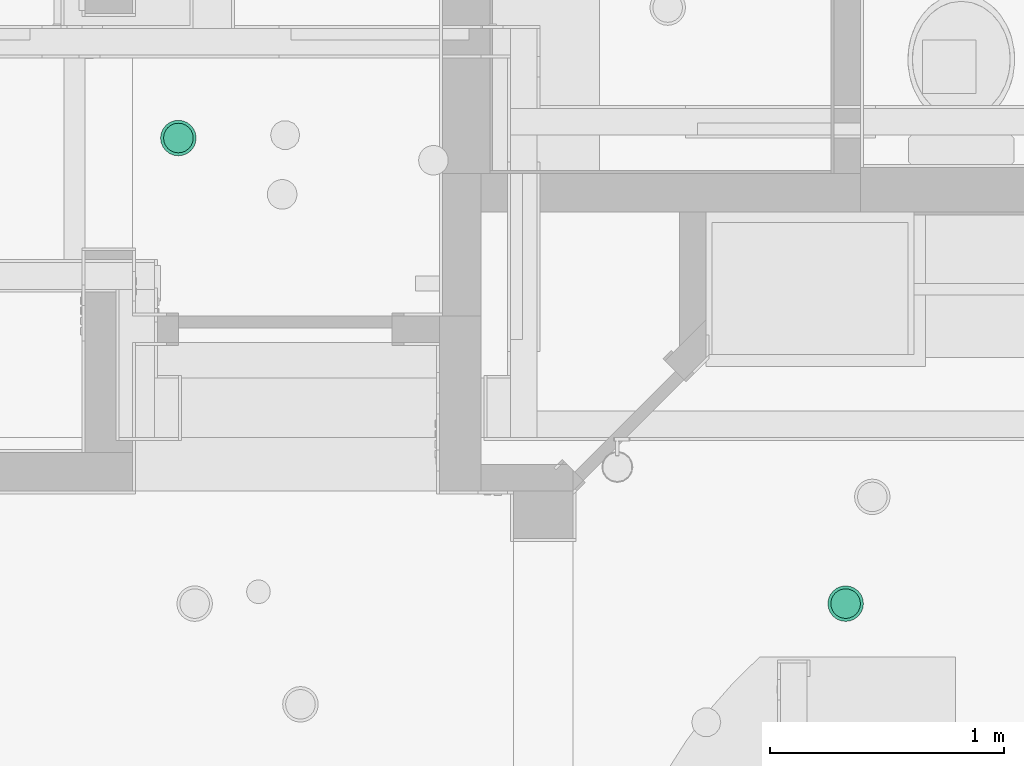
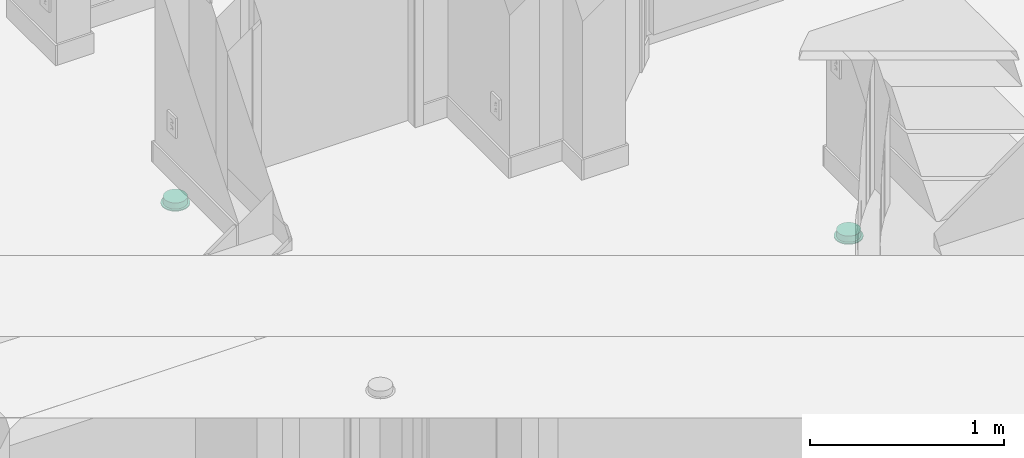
# One storey, part 44 of 81: 2 flow terminals.
"""IFC2X3 building model written with IfcOpenShell, lengths in feet."""

from ifc_helpers import new_model, entity, si_unit, converted_unit, derived_unit, direction, frame, origin, place, context, subcontext, project, spatial, faceted_brep, source, transform, mapped, material, material_list, type_object, type_shapes, element, save


model = new_model("IFC2X3")

# Units and contexts
model_context = context("Model", 3, precision=0.0001, world=origin(), true_north=direction((6.12303176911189e-17, 1.0)))
body_context = subcontext(model_context, "Body", "Model", "MODEL_VIEW")
ifc_project = project(units=[converted_unit("LENGTHUNIT", "FOOT", entity("IfcRatioMeasure", 0.3048), si_unit("LENGTHUNIT", "METRE"), dimensions=[1, 0, 0, 0, 0, 0, 0]), converted_unit("AREAUNIT", "SQUARE FOOT", entity("IfcRatioMeasure", 0.09290304), si_unit("AREAUNIT", "SQUARE_METRE"), dimensions=[2, 0, 0, 0, 0, 0, 0]), converted_unit("VOLUMEUNIT", "CUBIC FOOT", entity("IfcRatioMeasure", 0.028316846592), si_unit("VOLUMEUNIT", "CUBIC_METRE"), dimensions=[3, 0, 0, 0, 0, 0, 0]), converted_unit("PLANEANGLEUNIT", "DEGREE", entity("IfcRatioMeasure", 0.0174532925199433), si_unit("PLANEANGLEUNIT", "RADIAN"), dimensions=[0, 0, 0, 0, 0, 0, 0]), si_unit("MASSUNIT", "GRAM", prefix="KILO"), derived_unit("MASSDENSITYUNIT", [(si_unit("MASSUNIT", "GRAM", prefix="KILO"), 1), (si_unit("LENGTHUNIT", "METRE"), -3)]), derived_unit("MOMENTOFINERTIAUNIT", [(si_unit("LENGTHUNIT", "METRE"), 4)]), si_unit("TIMEUNIT", "SECOND"), si_unit("FREQUENCYUNIT", "HERTZ"), si_unit("THERMODYNAMICTEMPERATUREUNIT", "DEGREE_CELSIUS"), derived_unit("THERMALTRANSMITTANCEUNIT", [(si_unit("MASSUNIT", "GRAM", prefix="KILO"), 1), (si_unit("THERMODYNAMICTEMPERATUREUNIT", "KELVIN"), -1), (si_unit("TIMEUNIT", "SECOND"), -3)]), derived_unit("VOLUMETRICFLOWRATEUNIT", [(si_unit("LENGTHUNIT", "METRE"), 3), (si_unit("TIMEUNIT", "SECOND"), -1)]), si_unit("ELECTRICCURRENTUNIT", "AMPERE"), si_unit("ELECTRICVOLTAGEUNIT", "VOLT"), si_unit("POWERUNIT", "WATT"), si_unit("FORCEUNIT", "NEWTON"), si_unit("ILLUMINANCEUNIT", "LUX"), si_unit("LUMINOUSFLUXUNIT", "LUMEN"), si_unit("LUMINOUSINTENSITYUNIT", "CANDELA"), derived_unit("USERDEFINED", [(si_unit("MASSUNIT", "GRAM", prefix="KILO"), -1), (si_unit("LENGTHUNIT", "METRE"), -2), (si_unit("TIMEUNIT", "SECOND"), 3), (si_unit("LUMINOUSFLUXUNIT", "LUMEN"), 1)]), derived_unit("LINEARVELOCITYUNIT", [(si_unit("LENGTHUNIT", "METRE"), 1), (si_unit("TIMEUNIT", "SECOND"), -1)]), si_unit("PRESSUREUNIT", "PASCAL"), derived_unit("USERDEFINED", [(si_unit("LENGTHUNIT", "METRE"), -2), (si_unit("MASSUNIT", "GRAM", prefix="KILO"), 1), (si_unit("TIMEUNIT", "SECOND"), -2)]), derived_unit("LINEARFORCEUNIT", [(si_unit("MASSUNIT", "GRAM", prefix="KILO"), 1), (si_unit("LENGTHUNIT", "METRE"), 1), (si_unit("TIMEUNIT", "SECOND"), -2), (si_unit("LENGTHUNIT", "METRE"), -1)]), derived_unit("PLANARFORCEUNIT", [(si_unit("MASSUNIT", "GRAM", prefix="KILO"), 1), (si_unit("LENGTHUNIT", "METRE"), 1), (si_unit("TIMEUNIT", "SECOND"), -2), (si_unit("LENGTHUNIT", "METRE"), -2)])], contexts=[model_context])

# Site, building, storey
site_placement = place(None, origin())
site = spatial("IfcSite", under=ifc_project, at=site_placement, Name="Default", CompositionType="ELEMENT")
building_placement = place(site_placement, origin())
building = spatial("IfcBuilding", under=site, at=building_placement, CompositionType="ELEMENT")
storey_placement = place(building_placement, origin())
storey = spatial("IfcBuildingStorey", under=building, at=storey_placement, Name="First floor", CompositionType="ELEMENT", Elevation=0.0)

# Flow terminals
ifc_material_1 = material(Name="Default New Material")
ifc_material_2 = material(Name="Glass, White, High Luminance")
ifc_material_list_1 = material_list([ifc_material_1, ifc_material_2])
ifc_material_list_2 = material_list([ifc_material_1, ifc_material_2])
light_fixture_type = type_object("IfcLightFixtureType", Name="M_Recessed Lamp - Round - LED:Light 2", PredefinedType="NOTDEFINED", material=ifc_material_list_2)
shared_shape = source(origin(), body_context, "Body", "Brep", [
    faceted_brep([(-0.124999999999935, 0.216506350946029, 0.0208333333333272), (-0.176776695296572, 0.176776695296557, 0.0208333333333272), (-0.0833333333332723, 0.144337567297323, 0.0208333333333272), (-0.0431365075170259, 0.160987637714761, 0.0208333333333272), (-0.0647047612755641, 0.241481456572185, 0.0208333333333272), (-0.117851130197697, 0.117851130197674, 0.0208333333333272), (-0.216506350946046, 0.12499999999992, 0.0208333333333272), (-0.144337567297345, 0.0833333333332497, 0.0208333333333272), (-0.160987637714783, 0.0431365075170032, 0.0208333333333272), (-0.241481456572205, 0.0647047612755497, 0.0208333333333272), (-0.166666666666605, 0.0, 0.0208333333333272), (-0.249999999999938, 0.0, 0.0208333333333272), (-0.160987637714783, -0.0431365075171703, 0.0208333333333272), (-0.241481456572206, -0.0647047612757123, 0.0208333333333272), (-0.144337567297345, -0.0833333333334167, 0.0208333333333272), (-0.216506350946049, -0.125000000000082, 0.0208333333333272), (-0.117851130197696, -0.117851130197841, 0.0208333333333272), (-0.176776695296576, -0.176776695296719, 0.0208333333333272), (-0.0833333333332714, -0.14433756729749, 0.0208333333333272), (-0.12499999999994, -0.216506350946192, 0.0208333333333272), (-0.0431365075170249, -0.160987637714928, 0.0208333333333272), (-0.0647047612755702, -0.24148145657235, 0.0208333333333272), (0.0, -0.16666666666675, 0.0208333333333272), (0.0, -0.250000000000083, 0.0208333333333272), (0.0431365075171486, -0.160987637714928, 0.0208333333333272), (0.0647047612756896, -0.241481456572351, 0.0208333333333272), (0.0833333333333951, -0.144337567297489, 0.0208333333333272), (0.12500000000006, -0.216506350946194, 0.0208333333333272), (0.11785113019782, -0.117851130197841, 0.0208333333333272), (0.176776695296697, -0.176776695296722, 0.0208333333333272), (0.144337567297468, -0.0833333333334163, 0.0208333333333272), (0.21650635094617, -0.125000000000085, 0.0208333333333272), (0.241481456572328, -0.0647047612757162, 0.0208333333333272), (0.160987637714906, -0.0431365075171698, 0.0208333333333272), (0.250000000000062, 0.0, 0.0208333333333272), (0.166666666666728, 0.0, 0.0208333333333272), (0.241481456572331, 0.06470476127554, 0.0208333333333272), (0.160987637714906, 0.0431365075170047, 0.0208333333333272), (0.216506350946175, 0.124999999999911, 0.0208333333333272), (0.144337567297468, 0.0833333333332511, 0.0208333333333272), (0.176776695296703, 0.176776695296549, 0.0208333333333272), (0.117851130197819, 0.117851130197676, 0.0208333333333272), (0.125000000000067, 0.216506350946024, 0.0208333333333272), (0.0833333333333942, 0.144337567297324, 0.0208333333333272), (0.0647047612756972, 0.241481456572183, 0.0208333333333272), (0.0431365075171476, 0.160987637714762, 0.0208333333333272), (0.0, 0.249999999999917, 0.0208333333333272), (0.0, 0.166666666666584, 0.0208333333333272), (-0.12499999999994, -0.216506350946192, 0.0), (-0.176776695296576, -0.176776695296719, 0.0), (-0.0833333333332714, -0.14433756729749, 0.0), (-0.0431365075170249, -0.160987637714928, 0.0), (-0.0647047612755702, -0.24148145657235, 0.0), (-0.117851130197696, -0.117851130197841, 0.0), (-0.216506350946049, -0.125000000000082, 0.0), (-0.144337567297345, -0.0833333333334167, 0.0), (-0.160987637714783, -0.0431365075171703, 0.0), (-0.241481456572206, -0.0647047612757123, 0.0), (-0.166666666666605, 0.0, 0.0), (-0.249999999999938, 0.0, 0.0), (-0.160987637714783, 0.0431365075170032, 0.0), (-0.241481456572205, 0.0647047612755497, 0.0), (-0.144337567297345, 0.0833333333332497, 0.0), (-0.216506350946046, 0.12499999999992, 0.0), (-0.117851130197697, 0.117851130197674, 0.0), (-0.176776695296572, 0.176776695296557, 0.0), (-0.0833333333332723, 0.144337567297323, 0.0), (-0.124999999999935, 0.216506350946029, 0.0), (-0.0431365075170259, 0.160987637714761, 0.0), (-0.0647047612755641, 0.241481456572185, 0.0), (0.0, 0.166666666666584, 0.0), (0.0, 0.249999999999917, 0.0), (0.0431365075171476, 0.160987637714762, 0.0), (0.0647047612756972, 0.241481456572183, 0.0), (0.0833333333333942, 0.144337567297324, 0.0), (0.125000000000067, 0.216506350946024, 0.0), (0.117851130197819, 0.117851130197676, 0.0), (0.176776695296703, 0.176776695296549, 0.0), (0.144337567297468, 0.0833333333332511, 0.0), (0.216506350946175, 0.124999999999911, 0.0), (0.241481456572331, 0.06470476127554, 0.0), (0.160987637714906, 0.0431365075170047, 0.0), (0.250000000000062, 0.0, 0.0), (0.166666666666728, 0.0, 0.0), (0.241481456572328, -0.0647047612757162, 0.0), (0.160987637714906, -0.0431365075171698, 0.0), (0.21650635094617, -0.125000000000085, 0.0), (0.144337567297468, -0.0833333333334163, 0.0), (0.176776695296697, -0.176776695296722, 0.0), (0.11785113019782, -0.117851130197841, 0.0), (0.12500000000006, -0.216506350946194, 0.0), (0.0833333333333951, -0.144337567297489, 0.0), (0.0647047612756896, -0.241481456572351, 0.0), (0.0431365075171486, -0.160987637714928, 0.0), (0.0, -0.250000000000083, 0.0), (0.0, -0.16666666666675, 0.0)], [[[0, 1, 2]], [[0, 2, 3]], [[3, 4, 0]], [[2, 1, 5]], [[6, 5, 1]], [[7, 5, 6]], [[8, 7, 6]], [[8, 6, 9]], [[8, 9, 10]], [[10, 9, 11]], [[12, 10, 11]], [[12, 11, 13]], [[14, 12, 13]], [[14, 13, 15]], [[16, 14, 15]], [[15, 17, 16]], [[17, 18, 16]], [[18, 17, 19]], [[18, 19, 20]], [[21, 20, 19]], [[20, 21, 22]], [[22, 21, 23]], [[23, 24, 22]], [[24, 23, 25]], [[24, 25, 26]], [[27, 26, 25]], [[27, 28, 26]], [[27, 29, 28]], [[30, 28, 29]], [[31, 30, 29]], [[32, 30, 31]], [[33, 30, 32]], [[33, 32, 34]], [[34, 35, 33]], [[36, 35, 34]], [[36, 37, 35]], [[37, 36, 38]], [[39, 37, 38]], [[39, 38, 40]], [[39, 40, 41]], [[40, 42, 41]], [[41, 42, 43]], [[43, 42, 44]], [[44, 45, 43]], [[46, 45, 44]], [[4, 47, 46]], [[45, 46, 47]], [[4, 3, 47]], [[48, 49, 50]], [[48, 50, 51]], [[51, 52, 48]], [[50, 49, 53]], [[54, 53, 49]], [[55, 53, 54]], [[56, 55, 54]], [[56, 54, 57]], [[56, 57, 58]], [[58, 57, 59]], [[60, 58, 59]], [[60, 59, 61]], [[62, 60, 61]], [[62, 61, 63]], [[64, 62, 63]], [[63, 65, 64]], [[65, 66, 64]], [[66, 65, 67]], [[66, 67, 68]], [[69, 68, 67]], [[68, 69, 70]], [[70, 69, 71]], [[71, 72, 70]], [[72, 71, 73]], [[72, 73, 74]], [[75, 74, 73]], [[75, 76, 74]], [[75, 77, 76]], [[78, 76, 77]], [[79, 78, 77]], [[80, 78, 79]], [[81, 78, 80]], [[81, 80, 82]], [[82, 83, 81]], [[84, 83, 82]], [[84, 85, 83]], [[85, 84, 86]], [[87, 85, 86]], [[87, 86, 88]], [[87, 88, 89]], [[88, 90, 89]], [[89, 90, 91]], [[91, 90, 92]], [[92, 93, 91]], [[94, 93, 92]], [[52, 95, 94]], [[93, 94, 95]], [[52, 51, 95]], [[10, 58, 60, 8]], [[8, 60, 62, 7]], [[2, 5, 64, 66]], [[62, 64, 5, 7]], [[3, 2, 66, 68]], [[70, 47, 3, 68]], [[45, 72, 74, 43]], [[43, 74, 76, 41]], [[37, 39, 78, 81]], [[76, 78, 39, 41]], [[35, 37, 81, 83]], [[45, 47, 70, 72]], [[35, 83, 85, 33]], [[33, 85, 87, 30]], [[26, 28, 89, 91]], [[87, 89, 28, 30]], [[24, 26, 91, 93]], [[95, 22, 24, 93]], [[20, 51, 50, 18]], [[18, 50, 53, 16]], [[12, 14, 55, 56]], [[53, 55, 14, 16]], [[10, 12, 56, 58]], [[20, 22, 95, 51]], [[57, 13, 11, 59]], [[54, 15, 13, 57]], [[19, 17, 49, 48]], [[54, 49, 17, 15]], [[21, 19, 48, 52]], [[23, 21, 52, 94]], [[92, 25, 23, 94]], [[90, 27, 25, 92]], [[31, 29, 88, 86]], [[90, 88, 29, 27]], [[32, 31, 86, 84]], [[34, 32, 84, 82]], [[80, 36, 34, 82]], [[79, 38, 36, 80]], [[42, 40, 77, 75]], [[79, 77, 40, 38]], [[44, 42, 75, 73]], [[46, 44, 73, 71]], [[69, 4, 46, 71]], [[67, 0, 4, 69]], [[6, 1, 65, 63]], [[67, 65, 1, 0]], [[9, 6, 63, 61]], [[11, 9, 61, 59]]]),
    faceted_brep([(0.0431365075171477, -0.160987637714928, 0.0208333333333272), (0.0833333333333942, -0.14433756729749, 0.0208333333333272), (0.117851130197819, -0.117851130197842, 0.0208333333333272), (0.144337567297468, -0.0833333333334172, 0.0208333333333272), (0.160987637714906, -0.0431365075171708, 0.0208333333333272), (0.166666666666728, 0.0, 0.0208333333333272), (0.160987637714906, 0.0431365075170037, 0.0208333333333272), (0.144337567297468, 0.0833333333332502, 0.0208333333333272), (0.11785113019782, 0.117851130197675, 0.0208333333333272), (0.0833333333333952, 0.144337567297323, 0.0208333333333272), (0.0431365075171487, 0.160987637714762, 0.0208333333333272), (0.0, 0.166666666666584, 0.0208333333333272), (-0.0431365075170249, 0.160987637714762, 0.0208333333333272), (-0.0833333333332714, 0.144337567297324, 0.0208333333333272), (-0.117851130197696, 0.117851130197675, 0.0208333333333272), (-0.144337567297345, 0.0833333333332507, 0.0208333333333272), (-0.160987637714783, 0.0431365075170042, 0.0208333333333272), (-0.166666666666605, 0.0, 0.0208333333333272), (-0.160987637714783, -0.0431365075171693, 0.0208333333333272), (-0.144337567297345, -0.0833333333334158, 0.0208333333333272), (-0.117851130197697, -0.117851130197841, 0.0208333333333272), (-0.0833333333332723, -0.144337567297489, 0.0208333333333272), (-0.0431365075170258, -0.160987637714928, 0.0208333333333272), (0.0, -0.16666666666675, 0.0208333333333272), (0.0431365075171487, 0.160987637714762, 0.0), (0.0833333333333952, 0.144337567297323, 0.0), (0.11785113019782, 0.117851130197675, 0.0), (0.144337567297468, 0.0833333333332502, 0.0), (0.160987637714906, 0.0431365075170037, 0.0), (0.166666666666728, 0.0, 0.0), (0.160987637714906, -0.0431365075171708, 0.0), (0.144337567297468, -0.0833333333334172, 0.0), (0.117851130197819, -0.117851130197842, 0.0), (0.0833333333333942, -0.14433756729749, 0.0), (0.0431365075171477, -0.160987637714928, 0.0), (0.0, -0.16666666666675, 0.0), (-0.0431365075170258, -0.160987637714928, 0.0), (-0.0833333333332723, -0.144337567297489, 0.0), (-0.117851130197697, -0.117851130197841, 0.0), (-0.144337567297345, -0.0833333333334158, 0.0), (-0.160987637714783, -0.0431365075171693, 0.0), (-0.166666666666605, 0.0, 0.0), (-0.160987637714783, 0.0431365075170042, 0.0), (-0.144337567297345, 0.0833333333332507, 0.0), (-0.117851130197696, 0.117851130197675, 0.0), (-0.0833333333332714, 0.144337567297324, 0.0), (-0.0431365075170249, 0.160987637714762, 0.0), (0.0, 0.166666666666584, 0.0)], [[[0, 1, 2, 3, 4, 5, 6, 7, 8, 9, 10, 11, 12, 13, 14, 15, 16, 17, 18, 19, 20, 21, 22, 23]], [[24, 25, 26, 27, 28, 29, 30, 31, 32, 33, 34, 35, 36, 37, 38, 39, 40, 41, 42, 43, 44, 45, 46, 47]], [[40, 18, 17, 41]], [[39, 19, 18, 40]], [[21, 20, 38, 37]], [[39, 38, 20, 19]], [[22, 21, 37, 36]], [[23, 22, 36, 35]], [[34, 0, 23, 35]], [[33, 1, 0, 34]], [[3, 2, 32, 31]], [[33, 32, 2, 1]], [[4, 3, 31, 30]], [[5, 4, 30, 29]], [[28, 6, 5, 29]], [[27, 7, 6, 28]], [[9, 8, 26, 25]], [[27, 26, 8, 7]], [[10, 9, 25, 24]], [[11, 10, 24, 47]], [[46, 12, 11, 47]], [[45, 13, 12, 46]], [[15, 14, 44, 43]], [[45, 44, 14, 13]], [[16, 15, 43, 42]], [[17, 16, 42, 41]]]),
    faceted_brep([(0.0, -0.16666666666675, -0.104166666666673), (0.0431365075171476, -0.160987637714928, -0.104166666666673), (0.0833333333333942, -0.14433756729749, -0.104166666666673), (0.117851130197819, -0.117851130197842, -0.104166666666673), (0.144337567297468, -0.0833333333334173, -0.104166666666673), (0.160987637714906, -0.0431365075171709, -0.104166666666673), (0.166666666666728, 0.0, -0.104166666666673), (0.160987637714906, 0.0431365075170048, -0.104166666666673), (0.144337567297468, 0.0833333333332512, -0.104166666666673), (0.117851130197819, 0.117851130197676, -0.104166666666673), (0.0833333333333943, 0.144337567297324, -0.104166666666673), (0.0431365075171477, 0.160987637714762, -0.104166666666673), (0.0, 0.166666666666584, -0.104166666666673), (-0.0431365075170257, 0.160987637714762, -0.104166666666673), (-0.0833333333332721, 0.144337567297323, -0.104166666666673), (-0.117851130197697, 0.117851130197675, -0.104166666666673), (-0.144337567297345, 0.0833333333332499, -0.104166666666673), (-0.160987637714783, 0.0431365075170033, -0.104166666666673), (-0.166666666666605, 0.0, -0.104166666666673), (-0.160987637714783, -0.0431365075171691, -0.104166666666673), (-0.144337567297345, -0.0833333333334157, -0.104166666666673), (-0.117851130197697, -0.11785113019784, -0.104166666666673), (-0.0833333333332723, -0.144337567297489, -0.104166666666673), (-0.0431365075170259, -0.160987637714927, -0.104166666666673), (0.0, 0.20833333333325, -0.125000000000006), (0.0539206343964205, 0.201234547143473, -0.125000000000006), (0.104166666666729, 0.180421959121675, -0.125000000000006), (0.147313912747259, 0.147313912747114, -0.125000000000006), (0.18042195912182, 0.104166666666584, -0.125000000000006), (0.201234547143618, 0.0539206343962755, -0.125000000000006), (0.208333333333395, 0.0, -0.125000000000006), (0.201234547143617, -0.0539206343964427, -0.125000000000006), (0.180421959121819, -0.104166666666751, -0.125000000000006), (0.147313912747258, -0.147313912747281, -0.125000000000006), (0.104166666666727, -0.180421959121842, -0.125000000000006), (0.0539206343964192, -0.201234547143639, -0.125000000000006), (0.0, -0.208333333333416, -0.125000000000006), (-0.0539206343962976, -0.201234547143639, -0.125000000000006), (-0.104166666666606, -0.180421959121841, -0.125000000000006), (-0.147313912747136, -0.14731391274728, -0.125000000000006), (-0.180421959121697, -0.104166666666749, -0.125000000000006), (-0.201234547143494, -0.0539206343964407, -0.125000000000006), (-0.208333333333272, 0.0, -0.125000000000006), (-0.201234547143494, 0.0539206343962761, -0.125000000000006), (-0.180421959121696, 0.104166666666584, -0.125000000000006), (-0.147313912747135, 0.147313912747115, -0.125000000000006), (-0.104166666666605, 0.180421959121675, -0.125000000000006), (-0.0539206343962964, 0.201234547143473, -0.125000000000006), (-0.201234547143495, -0.0539206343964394, -0.104166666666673), (-0.201234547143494, -0.0539206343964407, 0.0), (-0.208333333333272, 0.0, 0.0), (-0.208333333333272, 0.0, -0.104166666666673), (-0.180421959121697, -0.104166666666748, -0.104166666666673), (-0.180421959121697, -0.104166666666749, 0.0), (-0.104166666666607, -0.18042195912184, -0.104166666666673), (-0.104166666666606, -0.180421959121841, 0.0), (-0.147313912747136, -0.14731391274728, 0.0), (-0.147313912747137, -0.147313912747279, -0.104166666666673), (-0.0539206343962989, -0.201234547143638, -0.104166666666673), (-0.0539206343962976, -0.201234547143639, 0.0), (0.0, -0.208333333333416, -0.104166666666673), (0.0, -0.208333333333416, 0.0), (0.053920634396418, -0.201234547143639, -0.104166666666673), (0.0539206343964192, -0.201234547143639, 0.0), (0.104166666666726, -0.180421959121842, -0.104166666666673), (0.104166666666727, -0.180421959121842, 0.0), (0.180421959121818, -0.104166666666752, -0.104166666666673), (0.180421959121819, -0.104166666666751, 0.0), (0.147313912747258, -0.147313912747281, 0.0), (0.147313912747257, -0.147313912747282, -0.104166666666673), (0.201234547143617, -0.0539206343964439, -0.104166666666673), (0.201234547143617, -0.0539206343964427, 0.0), (0.208333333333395, 0.0, -0.104166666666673), (0.208333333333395, 0.0, 0.0), (0.201234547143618, 0.0539206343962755, -0.104166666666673), (0.201234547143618, 0.0539206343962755, 0.0), (0.18042195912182, 0.104166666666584, -0.104166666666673), (0.18042195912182, 0.104166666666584, 0.0), (0.104166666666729, 0.180421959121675, -0.104166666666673), (0.104166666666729, 0.180421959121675, 0.0), (0.147313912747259, 0.147313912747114, 0.0), (0.147313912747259, 0.147313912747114, -0.104166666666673), (0.0539206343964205, 0.201234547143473, -0.104166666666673), (0.0539206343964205, 0.201234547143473, 0.0), (0.0, 0.20833333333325, -0.104166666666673), (0.0, 0.20833333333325, 0.0), (-0.0539206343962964, 0.201234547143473, -0.104166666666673), (-0.0539206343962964, 0.201234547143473, 0.0), (-0.104166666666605, 0.180421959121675, -0.104166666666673), (-0.104166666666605, 0.180421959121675, 0.0), (-0.180421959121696, 0.104166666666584, -0.104166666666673), (-0.180421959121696, 0.104166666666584, 0.0), (-0.147313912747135, 0.147313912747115, 0.0), (-0.147313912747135, 0.147313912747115, -0.104166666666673), (-0.201234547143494, 0.0539206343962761, -0.104166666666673), (-0.201234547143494, 0.0539206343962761, 0.0), (-0.0833333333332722, 0.144337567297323, 0.0), (-0.0431365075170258, 0.160987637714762, 0.0), (-0.117851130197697, 0.117851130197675, 0.0), (-0.144337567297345, 0.0833333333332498, 0.0), (-0.160987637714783, 0.0431365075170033, 0.0), (-0.166666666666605, 0.0, 0.0), (-0.160987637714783, -0.0431365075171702, 0.0), (-0.144337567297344, -0.0833333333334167, 0.0), (-0.117851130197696, -0.117851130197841, 0.0), (-0.0833333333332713, -0.14433756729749, 0.0), (-0.0431365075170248, -0.160987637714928, 0.0), (0.0, -0.16666666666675, 0.0), (0.0431365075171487, -0.160987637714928, 0.0), (0.0833333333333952, -0.144337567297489, 0.0), (0.11785113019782, -0.117851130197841, 0.0), (0.144337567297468, -0.0833333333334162, 0.0), (0.160987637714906, -0.0431365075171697, 0.0), (0.166666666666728, 0.0, 0.0), (0.160987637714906, 0.0431365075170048, 0.0), (0.144337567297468, 0.0833333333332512, 0.0), (0.117851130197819, 0.117851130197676, 0.0), (0.0833333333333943, 0.144337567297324, 0.0), (0.0431365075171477, 0.160987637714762, 0.0), (0.0, 0.166666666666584, 0.0)], [[[0, 1, 2, 3, 4, 5, 6, 7, 8, 9, 10, 11, 12, 13, 14, 15, 16, 17, 18, 19, 20, 21, 22, 23]], [[24, 25, 26, 27, 28, 29, 30, 31, 32, 33, 34, 35, 36, 37, 38, 39, 40, 41, 42, 43, 44, 45, 46, 47]], [[41, 48, 49, 50, 51, 42]], [[40, 52, 53, 49, 48, 41]], [[54, 55, 56, 57, 39, 38]], [[40, 39, 57, 56, 53, 52]], [[58, 59, 55, 54, 38, 37]], [[60, 61, 59, 58, 37, 36]], [[35, 62, 63, 61, 60, 36]], [[34, 64, 65, 63, 62, 35]], [[66, 67, 68, 69, 33, 32]], [[34, 33, 69, 68, 65, 64]], [[70, 71, 67, 66, 32, 31]], [[72, 73, 71, 70, 31, 30]], [[29, 74, 75, 73, 72, 30]], [[28, 76, 77, 75, 74, 29]], [[78, 79, 80, 81, 27, 26]], [[28, 27, 81, 80, 77, 76]], [[82, 83, 79, 78, 26, 25]], [[84, 85, 83, 82, 25, 24]], [[47, 86, 87, 85, 84, 24]], [[46, 88, 89, 87, 86, 47]], [[90, 91, 92, 93, 45, 44]], [[46, 45, 93, 92, 89, 88]], [[94, 95, 91, 90, 44, 43]], [[51, 50, 95, 94, 43, 42]], [[89, 92, 96]], [[89, 96, 97]], [[97, 87, 89]], [[96, 92, 98]], [[91, 98, 92]], [[99, 98, 91]], [[100, 99, 91]], [[100, 91, 95]], [[100, 95, 101]], [[101, 95, 50]], [[102, 101, 50]], [[102, 50, 49]], [[103, 102, 49]], [[103, 49, 53]], [[104, 103, 53]], [[53, 56, 104]], [[56, 105, 104]], [[105, 56, 55]], [[105, 55, 106]], [[59, 106, 55]], [[106, 59, 107]], [[107, 59, 61]], [[61, 108, 107]], [[108, 61, 63]], [[108, 63, 109]], [[65, 109, 63]], [[65, 110, 109]], [[65, 68, 110]], [[111, 110, 68]], [[67, 111, 68]], [[71, 111, 67]], [[112, 111, 71]], [[112, 71, 73]], [[73, 113, 112]], [[75, 113, 73]], [[75, 114, 113]], [[114, 75, 77]], [[115, 114, 77]], [[115, 77, 80]], [[115, 80, 116]], [[80, 79, 116]], [[116, 79, 117]], [[117, 79, 83]], [[83, 118, 117]], [[85, 118, 83]], [[87, 119, 85]], [[85, 119, 118]], [[87, 97, 119]], [[113, 6, 5, 112]], [[112, 5, 4, 111]], [[109, 110, 3, 2]], [[4, 3, 110, 111]], [[108, 109, 2, 1]], [[0, 107, 108, 1]], [[104, 105, 22, 21]], [[23, 22, 105, 106]], [[102, 103, 20, 19]], [[104, 21, 20, 103]], [[102, 19, 18, 101]], [[0, 23, 106, 107]], [[101, 18, 17, 100]], [[100, 17, 16, 99]], [[96, 98, 15, 14]], [[16, 15, 98, 99]], [[97, 96, 14, 13]], [[12, 119, 97, 13]], [[118, 11, 10, 117]], [[117, 10, 9, 116]], [[114, 115, 8, 7]], [[9, 8, 115, 116]], [[113, 114, 7, 6]], [[118, 119, 12, 11]]]),
])
type_shapes(light_fixture_type, [shared_shape])
flow_terminal_1_placement = place(storey_placement, frame((4.3749999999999, 27.4583333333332, 8.41666666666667), z_axis=(0.0, 0.0, -1.0), x_axis=(1.0, 0.0, 0.0)))
element("IfcFlowTerminal", 1, at=flow_terminal_1_placement, inside=storey, type_object=light_fixture_type, material=ifc_material_list_1, Name="M_Recessed Lamp - Round - LED:Light 2", ObjectType="M_Recessed Lamp - Round - LED:Light 2", context=body_context, shape_type="MappedRepresentation", body=[
    mapped(shared_shape, transform((0.0, 0.0, 0.0), scale=1.0)),
])
ifc_material_list_3 = material_list([ifc_material_1, ifc_material_2])
flow_terminal_2_placement = place(storey_placement, frame((-5.0, 34.0, 8.41666666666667), z_axis=(0.0, 0.0, -1.0), x_axis=(1.0, 0.0, 0.0)))
element("IfcFlowTerminal", 2, at=flow_terminal_2_placement, inside=storey, type_object=light_fixture_type, material=ifc_material_list_3, Name="M_Recessed Lamp - Round - LED:Light 2", ObjectType="M_Recessed Lamp - Round - LED:Light 2", context=body_context, shape_type="MappedRepresentation", body=[
    mapped(shared_shape, transform((0.0, 0.0, 0.0), scale=1.0)),
])

save(model, "model.ifc")
